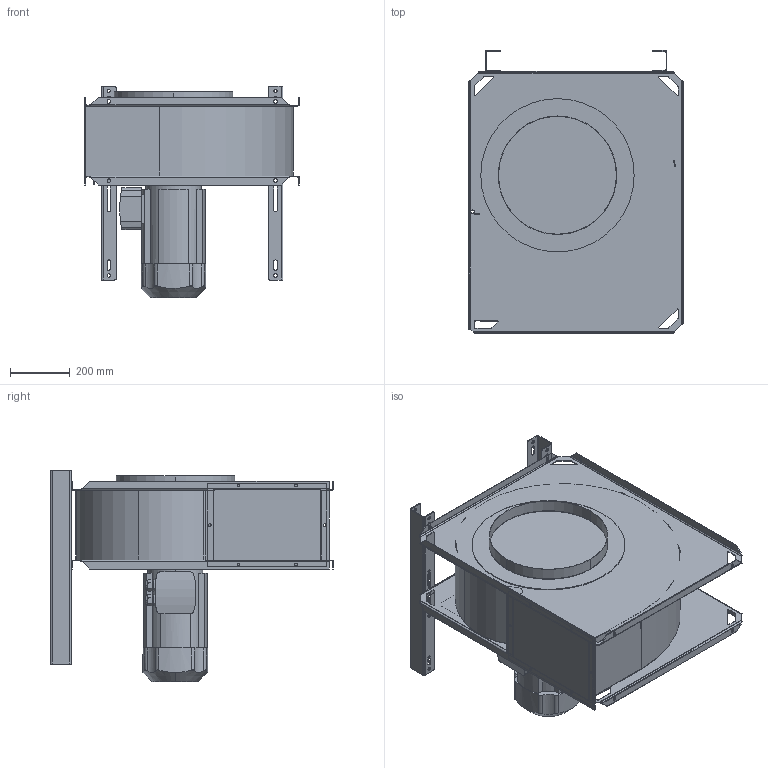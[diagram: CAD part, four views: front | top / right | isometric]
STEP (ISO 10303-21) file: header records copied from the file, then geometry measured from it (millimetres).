
FILE_DESCRIPTION((''),'2;1');
FILE_NAME('FBE_400-3_LG90','2022-10-13T14:19:00',('Tomas Bellgran'),(''),'CREO PARAMETRIC BY PTC INC, 2018260','CREO PARAMETRIC BY PTC INC, 2018260','');
FILE_SCHEMA(('AUTOMOTIVE_DESIGN { 1 0 10303 214 1 1 1 1 }'));
Length unit declared in the file: millimetre
Products named in the file (13): 107941; 107925; 107933; 107944; 116328; 115238; 115237; 115236; 4A3_112M_B5_L; 120071; 107961; 101125; FBE_400-3_LG90
Assembly tree (13 placements, depth 3):
  FBE_400-3_LG90
    107944
      107941
      107925
      107933
    116328
    115236
      115238
      115237
    120071
      4A3_112M_B5_L
    107961  x2
    101125
Bounding box: 720.8 x 950 x 709 mm (x, y, z)
Volume: 21733897.1 mm3; surface area: 5472654.3 mm2
Topology: 11 solids, 11 shells, 690 faces, 1774 edges, 1118 vertices
Faces by surface type: plane 393, cylinder 261, bspline 30, cone 6
Entity records: 32325 total; most frequent: CARTESIAN_POINT 5324, ORIENTED_EDGE 3196, DIRECTION 3176, PRESENTATION_STYLE_ASSIGNMENT 2232, STYLED_ITEM 2232, CURVE_STYLE 1598, EDGE_CURVE 1598, VECTOR 1084
